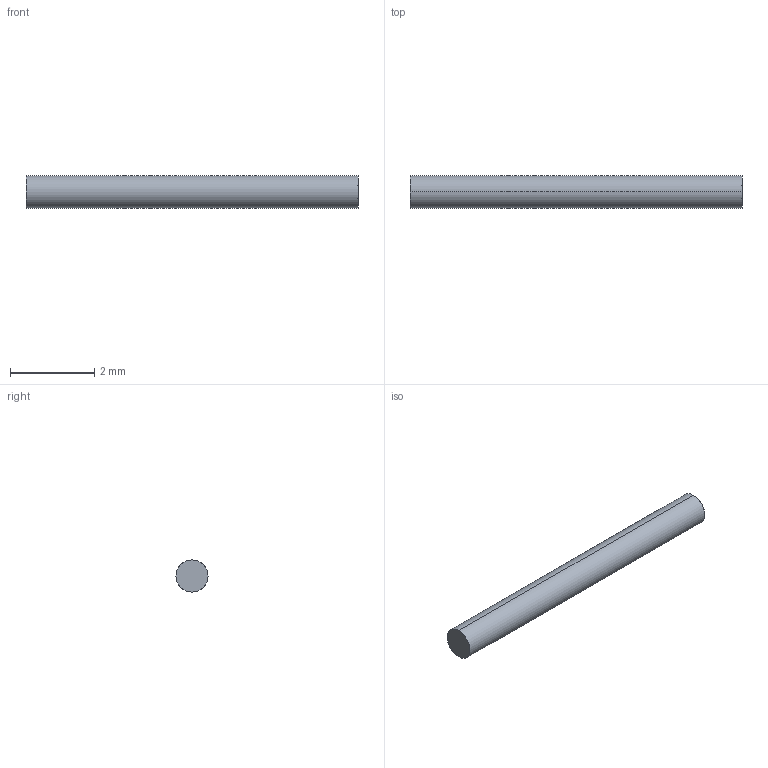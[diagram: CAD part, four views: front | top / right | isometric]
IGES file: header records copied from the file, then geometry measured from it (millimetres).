
Start section: SolidWorks IGES file using analytic representation for surfaces
Global section: file name: O:\PYLON\IGES FILES\A-A-S\A-A-S-RFULL.IGS; native system: SolidWorks 2015; preprocessor: SolidWorks 2015; author: kgolden; date: 171023.145008; units: inch
Bounding box: 7.87 x 0.76 x 0.76 mm (x, y, z)
Surface area: 22 mm2 (no closed solid volume)
Topology: 0 solids, 0 shells, 7 faces, 80 edges, 80 vertices
Faces by surface type: revolution 4, bspline 3
